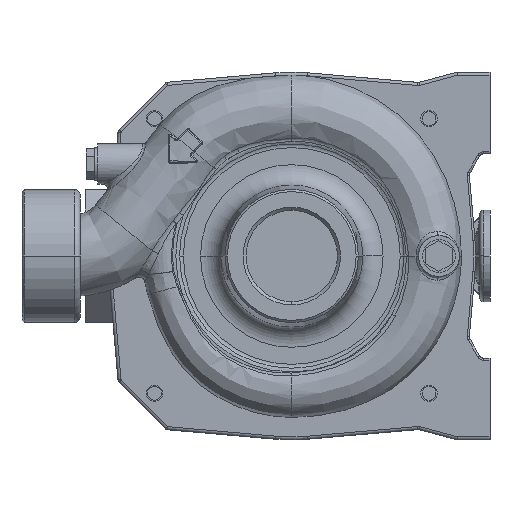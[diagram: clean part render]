
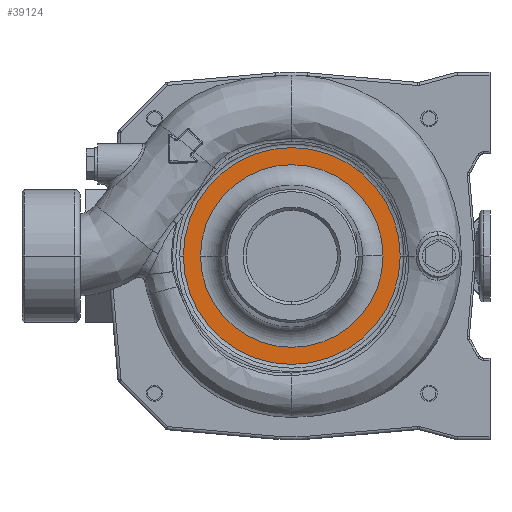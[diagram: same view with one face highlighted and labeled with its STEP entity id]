
A CAD part, left-side view. The second image highlights one B-rep face of the part: STEP entity #39124.
In plain terms, the highlighted planar face has unit normal (-1, 0, 0) as drawn and (0, 0, 1) by its records, which use the part's own axes.
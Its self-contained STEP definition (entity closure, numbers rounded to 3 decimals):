
#30295=CARTESIAN_POINT('',(0.,0.,10.5));
#30296=DIRECTION('',(0.,0.,-1.));
#30297=DIRECTION('',(0.,-1.,0.));
#30298=AXIS2_PLACEMENT_3D('',#30295,#30296,#30297);
#30300=CARTESIAN_POINT('',(0.,0.,10.5));
#30301=DIRECTION('',(0.,0.,-1.));
#30302=DIRECTION('',(0.,1.,0.));
#30303=AXIS2_PLACEMENT_3D('',#30300,#30301,#30302);
#30305=CARTESIAN_POINT('',(0.,0.,10.5));
#30306=DIRECTION('',(0.,0.,-1.));
#30307=DIRECTION('',(0.,-1.,0.));
#30308=AXIS2_PLACEMENT_3D('',#30305,#30306,#30307);
#30310=CARTESIAN_POINT('',(0.,0.,10.5));
#30311=DIRECTION('',(0.,0.,-1.));
#30312=DIRECTION('',(0.,1.,0.));
#30313=AXIS2_PLACEMENT_3D('',#30310,#30311,#30312);
#31569=CARTESIAN_POINT('',(0.,-44.682,10.5));
#31570=CARTESIAN_POINT('',(0.,44.682,10.5));
#31571=VERTEX_POINT('',#31569);
#31572=VERTEX_POINT('',#31570);
#32197=CARTESIAN_POINT('',(0.,-53.063,10.5));
#32198=CARTESIAN_POINT('',(0.,53.063,10.5));
#32199=VERTEX_POINT('',#32197);
#32200=VERTEX_POINT('',#32198);
#39109=CARTESIAN_POINT('',(0.,0.,10.5));
#39110=DIRECTION('',(0.,0.,1.));
#39111=DIRECTION('',(0.,1.,0.));
#39112=AXIS2_PLACEMENT_3D('',#39109,#39110,#39111);
#39113=PLANE('',#39112);
#39114=ORIENTED_EDGE('',*,*,#39103,.T.);
#39115=ORIENTED_EDGE('',*,*,#39088,.T.);
#39116=EDGE_LOOP('',(#39114,#39115));
#39117=FACE_OUTER_BOUND('',#39116,.F.);
#39119=ORIENTED_EDGE('',*,*,#39118,.F.);
#39121=ORIENTED_EDGE('',*,*,#39120,.F.);
#39122=EDGE_LOOP('',(#39119,#39121));
#39123=FACE_BOUND('',#39122,.F.);
#30299=CIRCLE('',#30298,53.063);
#30304=CIRCLE('',#30303,53.063);
#30309=CIRCLE('',#30308,44.682);
#30314=CIRCLE('',#30313,44.682);
#39088=EDGE_CURVE('',#32200,#32199,#30304,.T.);
#39103=EDGE_CURVE('',#32199,#32200,#30299,.T.);
#39118=EDGE_CURVE('',#31571,#31572,#30309,.T.);
#39120=EDGE_CURVE('',#31572,#31571,#30314,.T.);
#39124=ADVANCED_FACE('',(#39117,#39123),#39113,.T.);
